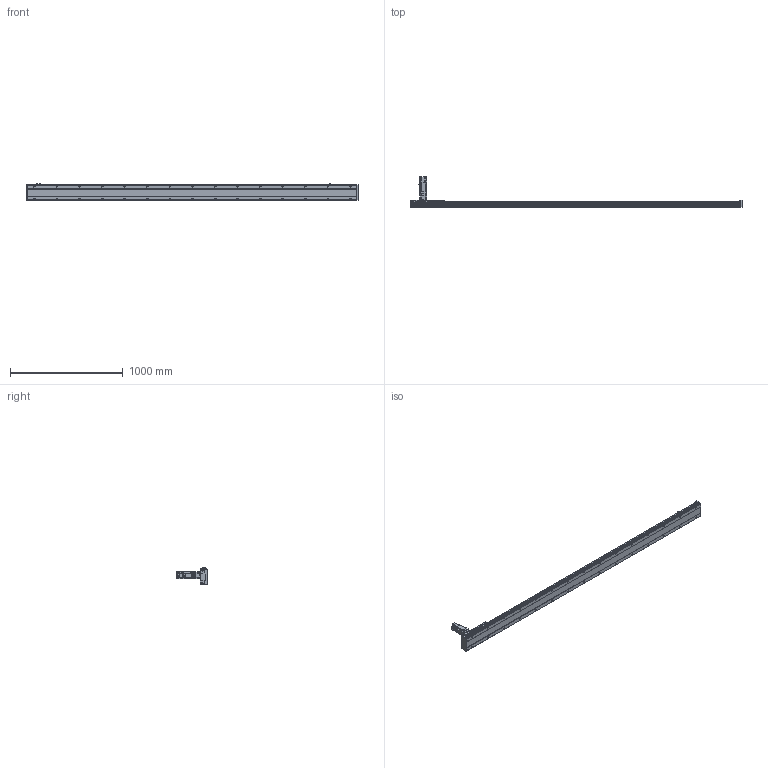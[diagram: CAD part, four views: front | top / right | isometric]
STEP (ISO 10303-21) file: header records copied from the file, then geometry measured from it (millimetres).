
FILE_DESCRIPTION(/* description */ ('STEP AP203'),/* implementation_level */ '2;1');
FILE_NAME(/* name */ 'SHS14A-L10-S2600-BC-T40-C1-N(0)',/* time_stamp */ '2023-03-27T08:50:42+02:00',/* author */ ('License CC BY-ND 4.0'),/* organization */ ('CADENAS'),/* preprocessor_version */ 'ST-DEVELOPER v19.3',/* originating_system */ 'PARTsolutions',/* authorisation */ ' ');
FILE_SCHEMA (('CONFIG_CONTROL_DESIGN'));
Length unit declared in the file: millimetre
Products named in the file (7): SHS14A-L10-S2600-BC-T40-C1-N(0); PSC140-sensor; T40-p1; SHS14AT_body3; SHS14A-2600_slider; SHS14A_body2; SHS14A-S2600-BC-T40-C1(0)_body
Assembly tree (13 placements, depth 2):
  SHS14A-L10-S2600-BC-T40-C1-N(0)
    PSC140-sensor  x3
    T40-p1
    SHS14AT_body3
    SHS14A-2600_slider
    SHS14A_body2  x6
    SHS14A-S2600-BC-T40-C1(0)_body
Bounding box: 2940 x 272.7 x 150.9 mm (x, y, z)
Volume: 12158396.7 mm3; surface area: 1893831.7 mm2
Topology: 13 solids, 13 shells, 2140 faces, 5463 edges, 3572 vertices
Faces by surface type: plane 1485, cylinder 563, cone 82, torus 10
Full cylindrical faces by diameter (mm): 2.8 x3, 4.134 x24, 4.2 x7, 4.4 x24, 4.5 x24, 4.6 x3, 4.8 x24, 4.917 x38, 5 x8, 5.5 x11, 5.94 x6, 6 x2, 6.6 x30, 8 x24, 8.49 x4, 8.5 x4, 9 x4, 10.5 x30, 13.964 x1, 14 x1, 14.182 x1, 16 x1, 18.974 x1, 19.274 x1, 19.774 x1, 19.8 x1, 34.442 x1, 42 x1, 50 x5
Entity records: 34680 total; most frequent: CARTESIAN_POINT 6192, DIRECTION 5861, ORIENTED_EDGE 5382, EDGE_CURVE 2691, AXIS2_PLACEMENT_3D 2049, VERTEX_POINT 1924, EDGE_LOOP 1769, FACE_BOUND 1769
